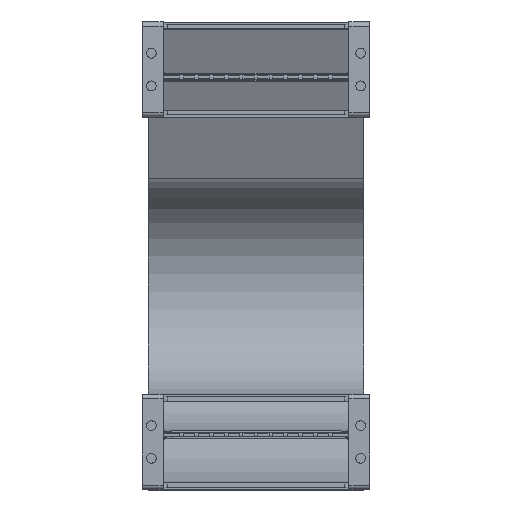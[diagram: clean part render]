
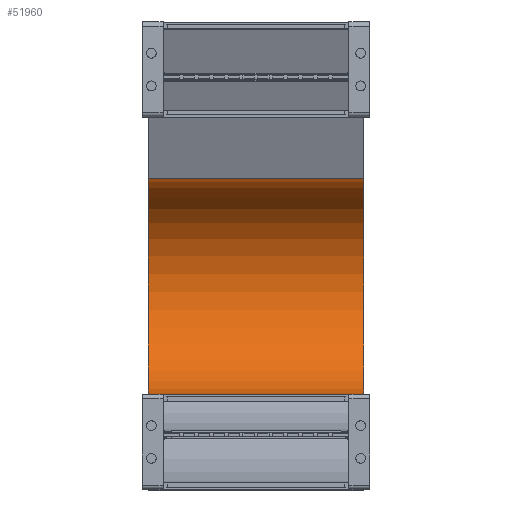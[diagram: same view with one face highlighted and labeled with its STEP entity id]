
A CAD part, top view. The second image highlights one B-rep face of the part: STEP entity #51960.
In plain terms, the highlighted cylindrical face has radius 73 mm (diameter 146 mm), a partial arc.
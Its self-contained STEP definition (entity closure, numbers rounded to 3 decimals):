
#51112=DIRECTION('',(-1.,0.,0.));
#51113=VECTOR('',#51112,145.);
#51114=CARTESIAN_POINT('',(72.5,64.,-500.));
#51115=LINE('',#51114,#51113);
#51126=DIRECTION('',(-1.,0.,0.));
#51127=VECTOR('',#51126,145.);
#51128=CARTESIAN_POINT('',(72.5,209.629,-507.354));
#51129=LINE('',#51128,#51127);
#51133=CARTESIAN_POINT('',(72.5,137.,-500.));
#51134=DIRECTION('',(-1.,0.,0.));
#51135=DIRECTION('',(0.,0.995,-0.101));
#51136=AXIS2_PLACEMENT_3D('',#51133,#51134,#51135);
#51212=CARTESIAN_POINT('',(-72.5,137.,-500.));
#51213=DIRECTION('',(-1.,0.,0.));
#51214=DIRECTION('',(0.,0.995,-0.101));
#51215=AXIS2_PLACEMENT_3D('',#51212,#51213,#51214);
#51334=CARTESIAN_POINT('',(72.5,209.629,-507.354));
#51335=CARTESIAN_POINT('',(-72.5,209.629,-507.354));
#51336=VERTEX_POINT('',#51334);
#51337=VERTEX_POINT('',#51335);
#51358=CARTESIAN_POINT('',(72.5,64.,-500.));
#51359=CARTESIAN_POINT('',(-72.5,64.,-500.));
#51360=VERTEX_POINT('',#51358);
#51361=VERTEX_POINT('',#51359);
#51946=CARTESIAN_POINT('',(1.,137.,-500.));
#51947=DIRECTION('',(-1.,0.,0.));
#51948=DIRECTION('',(0.,-0.995,0.101));
#51949=AXIS2_PLACEMENT_3D('',#51946,#51947,#51948);
#51950=CYLINDRICAL_SURFACE('',#51949,73.);
#51952=ORIENTED_EDGE('',*,*,#51951,.F.);
#51954=ORIENTED_EDGE('',*,*,#51953,.T.);
#51955=ORIENTED_EDGE('',*,*,#51929,.T.);
#51957=ORIENTED_EDGE('',*,*,#51956,.F.);
#51958=EDGE_LOOP('',(#51952,#51954,#51955,#51957));
#51959=FACE_OUTER_BOUND('',#51958,.F.);
#51137=CIRCLE('',#51136,73.);
#51216=CIRCLE('',#51215,73.);
#51929=EDGE_CURVE('',#51360,#51361,#51115,.T.);
#51951=EDGE_CURVE('',#51336,#51337,#51129,.T.);
#51953=EDGE_CURVE('',#51336,#51360,#51137,.T.);
#51956=EDGE_CURVE('',#51337,#51361,#51216,.T.);
#51960=ADVANCED_FACE('',(#51959),#51950,.F.);
